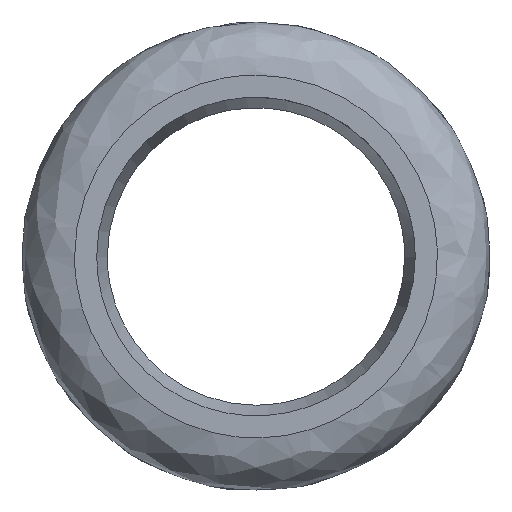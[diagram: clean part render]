
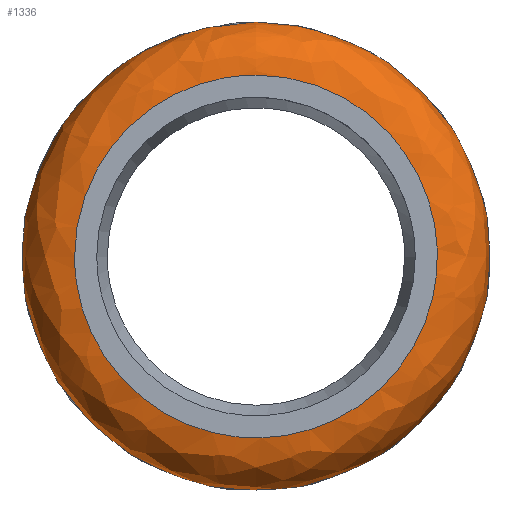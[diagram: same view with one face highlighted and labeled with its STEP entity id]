
A CAD part, left-side view. The second image highlights one B-rep face of the part: STEP entity #1336.
In plain terms, the highlighted free-form (B-spline) face has degree [2, 2] with [5, 9] control points.
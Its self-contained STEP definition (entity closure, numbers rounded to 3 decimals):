
#1290 = EDGE_CURVE('',#1291,#1293,#1295,.T.);
#1291 = VERTEX_POINT('',#1292);
#1292 = CARTESIAN_POINT('',(0.,10.25,0.));
#1293 = VERTEX_POINT('',#1294);
#1294 = CARTESIAN_POINT('',(0.,0.,10.25));
#1295 = ( BOUNDED_CURVE() B_SPLINE_CURVE(2,(#1296,#1297,#1298),
.UNSPECIFIED.,.F.,.F.) B_SPLINE_CURVE_WITH_KNOTS((3,3),(0.,
1.571),.PIECEWISE_BEZIER_KNOTS.) CURVE() 
GEOMETRIC_REPRESENTATION_ITEM() RATIONAL_B_SPLINE_CURVE((1.,
0.707,1.)) REPRESENTATION_ITEM('') );
#1296 = CARTESIAN_POINT('',(0.,10.25,0.));
#1297 = CARTESIAN_POINT('',(0.,10.25,10.25));
#1298 = CARTESIAN_POINT('',(0.,0.,10.25));
#1300 = EDGE_CURVE('',#1293,#1291,#1301,.T.);
#1301 = ( BOUNDED_CURVE() B_SPLINE_CURVE(2,(#1302,#1303,#1304,#1305,
#1306,#1307,#1308),.UNSPECIFIED.,.F.,.F.) B_SPLINE_CURVE_WITH_KNOTS((3,2
    ,2,3),(1.571,3.142,4.712,6.283),
.UNSPECIFIED.) CURVE() GEOMETRIC_REPRESENTATION_ITEM() 
RATIONAL_B_SPLINE_CURVE((1.,0.707,1.,0.707,1.,
0.707,1.)) REPRESENTATION_ITEM('') );
#1302 = CARTESIAN_POINT('',(0.,0.,10.25));
#1303 = CARTESIAN_POINT('',(0.,-10.25,10.25));
#1304 = CARTESIAN_POINT('',(0.,-10.25,0.));
#1305 = CARTESIAN_POINT('',(0.,-10.25,-10.25));
#1306 = CARTESIAN_POINT('',(0.,0.,-10.25));
#1307 = CARTESIAN_POINT('',(0.,10.25,-10.25));
#1308 = CARTESIAN_POINT('',(0.,10.25,0.));
#1336 = ADVANCED_FACE('',(#1337),#1376,.T.);
#1337 = FACE_BOUND('',#1338,.T.);
#1338 = EDGE_LOOP('',(#1339,#1349,#1359,#1365,#1373,#1374,#1375));
#1339 = ORIENTED_EDGE('',*,*,#1340,.F.);
#1340 = EDGE_CURVE('',#1341,#1343,#1345,.T.);
#1341 = VERTEX_POINT('',#1342);
#1342 = CARTESIAN_POINT('',(5.121,12.371,0.));
#1343 = VERTEX_POINT('',#1344);
#1344 = CARTESIAN_POINT('',(5.121,0.,12.371));
#1345 = ( BOUNDED_CURVE() B_SPLINE_CURVE(2,(#1346,#1347,#1348),
.UNSPECIFIED.,.F.,.F.) B_SPLINE_CURVE_WITH_KNOTS((3,3),(0.,
1.571),.PIECEWISE_BEZIER_KNOTS.) CURVE() 
GEOMETRIC_REPRESENTATION_ITEM() RATIONAL_B_SPLINE_CURVE((1.,
0.707,1.)) REPRESENTATION_ITEM('') );
#1346 = CARTESIAN_POINT('',(5.121,12.371,0.));
#1347 = CARTESIAN_POINT('',(5.121,12.371,12.371)
  );
#1348 = CARTESIAN_POINT('',(5.121,0.,
    12.371));
#1349 = ORIENTED_EDGE('',*,*,#1350,.F.);
#1350 = EDGE_CURVE('',#1351,#1341,#1353,.T.);
#1351 = VERTEX_POINT('',#1352);
#1352 = CARTESIAN_POINT('',(5.121,-12.371,0.));
#1353 = ( BOUNDED_CURVE() B_SPLINE_CURVE(2,(#1354,#1355,#1356,#1357,
#1358),.UNSPECIFIED.,.F.,.F.) B_SPLINE_CURVE_WITH_KNOTS((3,2,3),(
    3.142,4.712,6.283),
.PIECEWISE_BEZIER_KNOTS.) CURVE() GEOMETRIC_REPRESENTATION_ITEM() 
RATIONAL_B_SPLINE_CURVE((1.,0.707,1.,0.707,1.)) 
REPRESENTATION_ITEM('') );
#1354 = CARTESIAN_POINT('',(5.121,-12.371,
    0.));
#1355 = CARTESIAN_POINT('',(5.121,-12.371,
    -12.371));
#1356 = CARTESIAN_POINT('',(5.121,0.,
    -12.371));
#1357 = CARTESIAN_POINT('',(5.121,12.371,-12.371
    ));
#1358 = CARTESIAN_POINT('',(5.121,12.371,
    0.));
#1359 = ORIENTED_EDGE('',*,*,#1360,.F.);
#1360 = EDGE_CURVE('',#1343,#1351,#1361,.T.);
#1361 = ( BOUNDED_CURVE() B_SPLINE_CURVE(2,(#1362,#1363,#1364),
.UNSPECIFIED.,.F.,.F.) B_SPLINE_CURVE_WITH_KNOTS((3,3),(1.571,
3.142),.PIECEWISE_BEZIER_KNOTS.) CURVE() 
GEOMETRIC_REPRESENTATION_ITEM() RATIONAL_B_SPLINE_CURVE((1.,
0.707,1.)) REPRESENTATION_ITEM('') );
#1362 = CARTESIAN_POINT('',(5.121,0.,
    12.371));
#1363 = CARTESIAN_POINT('',(5.121,-12.371,12.371
    ));
#1364 = CARTESIAN_POINT('',(5.121,-12.371,
    0.));
#1365 = ORIENTED_EDGE('',*,*,#1366,.T.);
#1366 = EDGE_CURVE('',#1343,#1293,#1367,.T.);
#1367 = ( BOUNDED_CURVE() B_SPLINE_CURVE(2,(#1368,#1369,#1370,#1371,
#1372),.UNSPECIFIED.,.F.,.F.) B_SPLINE_CURVE_WITH_KNOTS((3,2,3),(
-0.785,0.393,1.571),.UNSPECIFIED.) CURVE() 
GEOMETRIC_REPRESENTATION_ITEM() RATIONAL_B_SPLINE_CURVE((1.,
0.831,1.,0.831,1.)) REPRESENTATION_ITEM('') );
#1368 = CARTESIAN_POINT('',(5.121,0.,12.371));
#1369 = CARTESIAN_POINT('',(3.704,0.,13.789));
#1370 = CARTESIAN_POINT('',(1.852,0.,13.022));
#1371 = CARTESIAN_POINT('',(0.,0.,12.255));
#1372 = CARTESIAN_POINT('',(0.,0.,10.25));
#1373 = ORIENTED_EDGE('',*,*,#1300,.T.);
#1374 = ORIENTED_EDGE('',*,*,#1290,.T.);
#1375 = ORIENTED_EDGE('',*,*,#1366,.F.);
#1376 = ( BOUNDED_SURFACE() B_SPLINE_SURFACE(2,2,(
    (#1377,#1378,#1379,#1380,#1381,#1382,#1383,#1384,#1385)
    ,(#1386,#1387,#1388,#1389,#1390,#1391,#1392,#1393,#1394)
    ,(#1395,#1396,#1397,#1398,#1399,#1400,#1401,#1402,#1403)
    ,(#1404,#1405,#1406,#1407,#1408,#1409,#1410,#1411,#1412)
    ,(#1413,#1414,#1415,#1416,#1417,#1418,#1419,#1420,#1421
)),.UNSPECIFIED.,.F.,.T.,.F.) B_SPLINE_SURFACE_WITH_KNOTS((3,2,3),(1,2,2
    ,2,2,2,1),(-1.571,-0.393,0.785),(
    -4.712,-3.142,-1.571,0.,1.571,
    3.142,4.712),.UNSPECIFIED.) 
GEOMETRIC_REPRESENTATION_ITEM() RATIONAL_B_SPLINE_SURFACE((
    (1.,0.707,1.,0.707,1.,0.707,1.
      ,0.707,1.)
    ,(0.831,0.588,0.831,0.588
      ,0.831,0.588,0.831,0.588
      ,0.831)
    ,(1.,0.707,1.,0.707,1.,0.707,1.
      ,0.707,1.)
    ,(0.831,0.588,0.831,0.588
      ,0.831,0.588,0.831,0.588
      ,0.831)
    ,(1.,0.707,1.,0.707,1.,0.707,1.
,0.707,1.))) REPRESENTATION_ITEM('') SURFACE() );
#1377 = CARTESIAN_POINT('',(5.121,0.,12.371));
#1378 = CARTESIAN_POINT('',(5.121,-12.371,12.371
    ));
#1379 = CARTESIAN_POINT('',(5.121,-12.371,0.));
#1380 = CARTESIAN_POINT('',(5.121,-12.371,
    -12.371));
#1381 = CARTESIAN_POINT('',(5.121,0.,-12.371));
#1382 = CARTESIAN_POINT('',(5.121,12.371,-12.371
    ));
#1383 = CARTESIAN_POINT('',(5.121,12.371,0.));
#1384 = CARTESIAN_POINT('',(5.121,12.371,12.371)
  );
#1385 = CARTESIAN_POINT('',(5.121,0.,12.371));
#1386 = CARTESIAN_POINT('',(3.704,0.,13.789));
#1387 = CARTESIAN_POINT('',(3.704,-13.789,
    13.789));
#1388 = CARTESIAN_POINT('',(3.704,-13.789,0.));
#1389 = CARTESIAN_POINT('',(3.704,-13.789,
    -13.789));
#1390 = CARTESIAN_POINT('',(3.704,0.,-13.789));
#1391 = CARTESIAN_POINT('',(3.704,13.789,
    -13.789));
#1392 = CARTESIAN_POINT('',(3.704,13.789,0.));
#1393 = CARTESIAN_POINT('',(3.704,13.789,13.789
    ));
#1394 = CARTESIAN_POINT('',(3.704,0.,13.789));
#1395 = CARTESIAN_POINT('',(1.852,0.,13.022));
#1396 = CARTESIAN_POINT('',(1.852,-13.022,
    13.022));
#1397 = CARTESIAN_POINT('',(1.852,-13.022,0.));
#1398 = CARTESIAN_POINT('',(1.852,-13.022,
    -13.022));
#1399 = CARTESIAN_POINT('',(1.852,0.,-13.022));
#1400 = CARTESIAN_POINT('',(1.852,13.022,
    -13.022));
#1401 = CARTESIAN_POINT('',(1.852,13.022,0.));
#1402 = CARTESIAN_POINT('',(1.852,13.022,
    13.022));
#1403 = CARTESIAN_POINT('',(1.852,0.,13.022));
#1404 = CARTESIAN_POINT('',(0.,0.,12.255));
#1405 = CARTESIAN_POINT('',(0.,-12.255,
    12.255));
#1406 = CARTESIAN_POINT('',(0.,-12.255,0.));
#1407 = CARTESIAN_POINT('',(0.,-12.255,
    -12.255));
#1408 = CARTESIAN_POINT('',(0.,0.,-12.255));
#1409 = CARTESIAN_POINT('',(0.,12.255,
    -12.255));
#1410 = CARTESIAN_POINT('',(0.,12.255,0.));
#1411 = CARTESIAN_POINT('',(0.,12.255,
    12.255));
#1412 = CARTESIAN_POINT('',(0.,0.,12.255));
#1413 = CARTESIAN_POINT('',(0.,0.,10.25));
#1414 = CARTESIAN_POINT('',(0.,-10.25,10.25));
#1415 = CARTESIAN_POINT('',(0.,-10.25,0.));
#1416 = CARTESIAN_POINT('',(0.,-10.25,-10.25));
#1417 = CARTESIAN_POINT('',(0.,0.,-10.25));
#1418 = CARTESIAN_POINT('',(0.,10.25,-10.25));
#1419 = CARTESIAN_POINT('',(0.,10.25,0.));
#1420 = CARTESIAN_POINT('',(0.,10.25,10.25));
#1421 = CARTESIAN_POINT('',(0.,0.,10.25));
